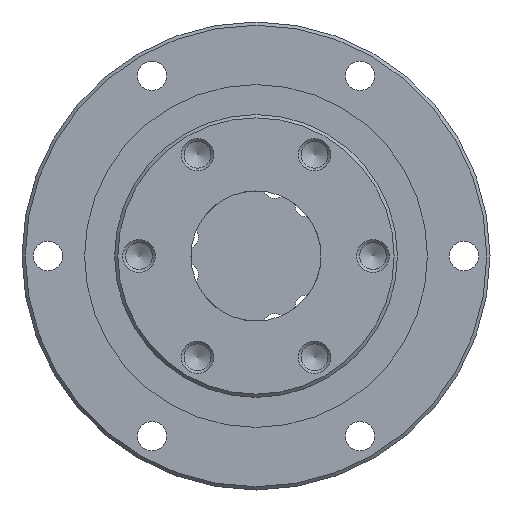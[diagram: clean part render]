
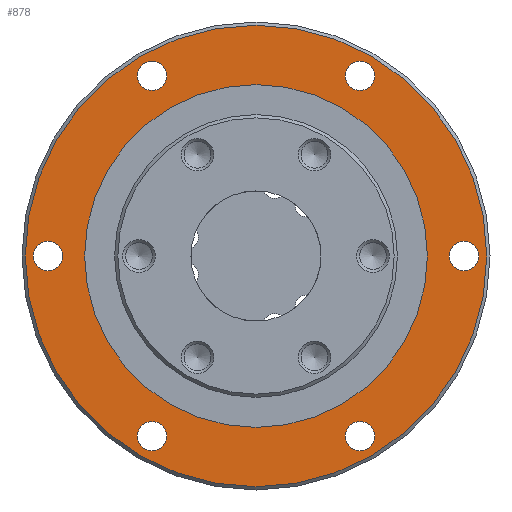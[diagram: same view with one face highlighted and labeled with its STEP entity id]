
A CAD part, left-side view. The second image highlights one B-rep face of the part: STEP entity #878.
In plain terms, the highlighted planar face has unit normal (-1, 0, 0).
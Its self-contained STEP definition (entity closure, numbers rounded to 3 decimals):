
#63=PLANE('',#1010);
#187=ORIENTED_EDGE('',*,*,#337,.F.);
#188=ORIENTED_EDGE('',*,*,#338,.F.);
#189=ORIENTED_EDGE('',*,*,#339,.F.);
#190=ORIENTED_EDGE('',*,*,#340,.F.);
#191=ORIENTED_EDGE('',*,*,#341,.F.);
#192=ORIENTED_EDGE('',*,*,#342,.F.);
#193=ORIENTED_EDGE('',*,*,#343,.F.);
#194=ORIENTED_EDGE('',*,*,#336,.T.);
#336=EDGE_CURVE('',#419,#419,#507,.T.);
#337=EDGE_CURVE('',#420,#420,#508,.T.);
#338=EDGE_CURVE('',#421,#421,#509,.F.);
#339=EDGE_CURVE('',#422,#422,#510,.F.);
#340=EDGE_CURVE('',#423,#423,#511,.F.);
#341=EDGE_CURVE('',#424,#424,#512,.F.);
#342=EDGE_CURVE('',#425,#425,#513,.F.);
#343=EDGE_CURVE('',#426,#426,#514,.F.);
#419=VERTEX_POINT('',#1546);
#420=VERTEX_POINT('',#1549);
#421=VERTEX_POINT('',#1551);
#422=VERTEX_POINT('',#1553);
#423=VERTEX_POINT('',#1555);
#424=VERTEX_POINT('',#1557);
#425=VERTEX_POINT('',#1559);
#426=VERTEX_POINT('',#1561);
#507=CIRCLE('',#1009,26.364);
#508=CIRCLE('',#1011,35.5);
#509=CIRCLE('',#1012,2.25);
#510=CIRCLE('',#1013,2.25);
#511=CIRCLE('',#1014,2.25);
#512=CIRCLE('',#1015,2.25);
#513=CIRCLE('',#1016,2.25);
#514=CIRCLE('',#1017,2.25);
#585=EDGE_LOOP('',(#187));
#586=EDGE_LOOP('',(#188));
#587=EDGE_LOOP('',(#189));
#588=EDGE_LOOP('',(#190));
#589=EDGE_LOOP('',(#191));
#590=EDGE_LOOP('',(#192));
#591=EDGE_LOOP('',(#193));
#592=EDGE_LOOP('',(#194));
#717=FACE_BOUND('',#585,.T.);
#718=FACE_BOUND('',#586,.T.);
#719=FACE_BOUND('',#587,.T.);
#720=FACE_BOUND('',#588,.T.);
#721=FACE_BOUND('',#589,.T.);
#722=FACE_BOUND('',#590,.T.);
#723=FACE_BOUND('',#591,.T.);
#724=FACE_BOUND('',#592,.T.);
#878=ADVANCED_FACE('',(#717,#718,#719,#720,#721,#722,#723,#724),#63,.F.);
#1009=AXIS2_PLACEMENT_3D('',#1545,#1233,#1234);
#1010=AXIS2_PLACEMENT_3D('',#1547,#1235,#1236);
#1011=AXIS2_PLACEMENT_3D('',#1548,#1237,#1238);
#1012=AXIS2_PLACEMENT_3D('',#1550,#1239,#1240);
#1013=AXIS2_PLACEMENT_3D('',#1552,#1241,#1242);
#1014=AXIS2_PLACEMENT_3D('',#1554,#1243,#1244);
#1015=AXIS2_PLACEMENT_3D('',#1556,#1245,#1246);
#1016=AXIS2_PLACEMENT_3D('',#1558,#1247,#1248);
#1017=AXIS2_PLACEMENT_3D('',#1560,#1249,#1250);
#1233=DIRECTION('',(1.,0.,0.));
#1234=DIRECTION('',(0.,0.,-1.));
#1235=DIRECTION('',(1.,0.,0.));
#1236=DIRECTION('',(0.,0.,-1.));
#1237=DIRECTION('',(1.,0.,0.));
#1238=DIRECTION('',(0.,0.,-1.));
#1239=DIRECTION('',(1.,0.,0.));
#1240=DIRECTION('',(0.,0.,-1.));
#1241=DIRECTION('',(1.,0.,0.));
#1242=DIRECTION('',(0.,0.,-1.));
#1243=DIRECTION('',(1.,0.,0.));
#1244=DIRECTION('',(0.,0.,-1.));
#1245=DIRECTION('',(1.,0.,0.));
#1246=DIRECTION('',(0.,0.,-1.));
#1247=DIRECTION('',(1.,0.,0.));
#1248=DIRECTION('',(0.,0.,-1.));
#1249=DIRECTION('',(1.,0.,0.));
#1250=DIRECTION('',(0.,0.,-1.));
#1545=CARTESIAN_POINT('',(12.,0.,0.));
#1546=CARTESIAN_POINT('',(12.,0.,-26.364));
#1547=CARTESIAN_POINT('',(12.,26.364,0.));
#1548=CARTESIAN_POINT('',(12.,0.,0.));
#1549=CARTESIAN_POINT('',(12.,0.,-35.5));
#1550=CARTESIAN_POINT('',(12.,32.,0.));
#1551=CARTESIAN_POINT('',(12.,32.,-2.25));
#1552=CARTESIAN_POINT('',(12.,16.,-27.713));
#1553=CARTESIAN_POINT('',(12.,16.,-29.963));
#1554=CARTESIAN_POINT('',(12.,-16.,-27.713));
#1555=CARTESIAN_POINT('',(12.,-16.,-29.963));
#1556=CARTESIAN_POINT('',(12.,-32.,0.));
#1557=CARTESIAN_POINT('',(12.,-32.,-2.25));
#1558=CARTESIAN_POINT('',(12.,-16.,27.713));
#1559=CARTESIAN_POINT('',(12.,-16.,25.463));
#1560=CARTESIAN_POINT('',(12.,16.,27.713));
#1561=CARTESIAN_POINT('',(12.,16.,25.463));
